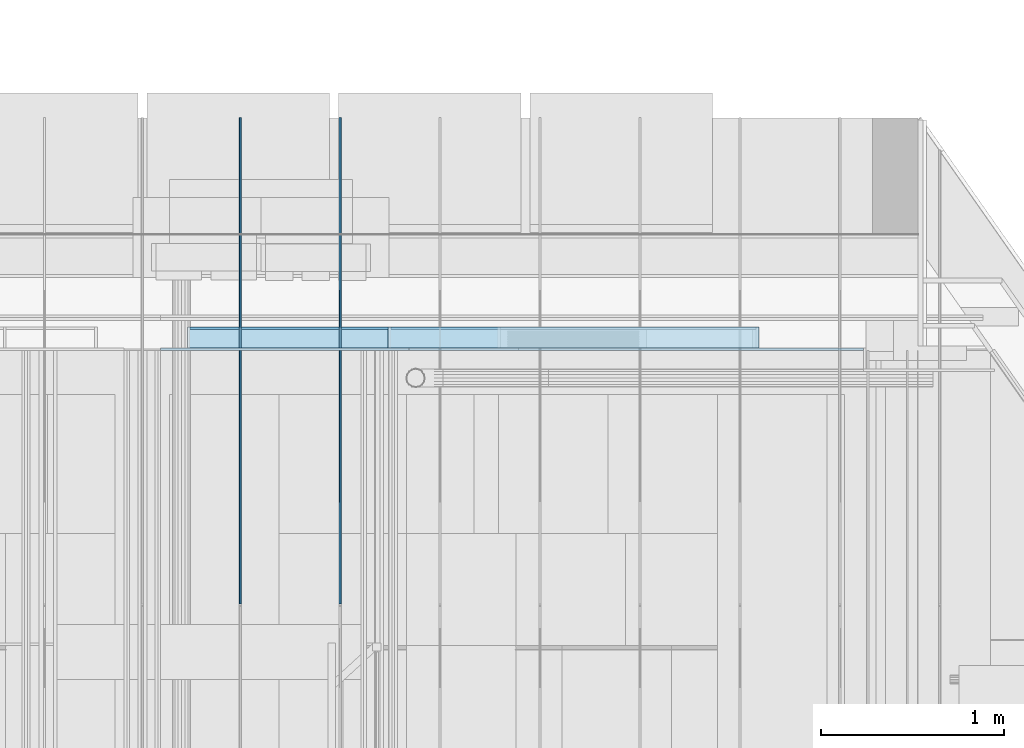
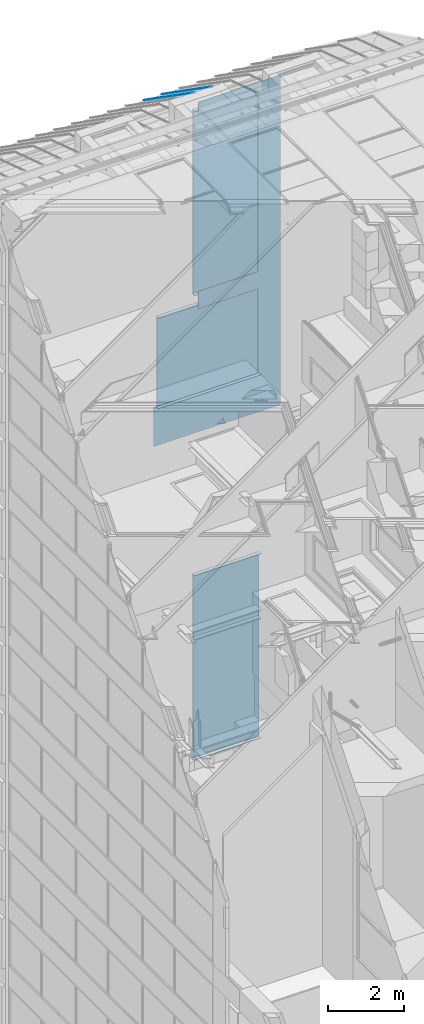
# One storey, part 290 of 583: 12 slabs.
"""IFC2X3 building model written with IfcOpenShell, lengths in metres."""

import ifcopenshell
import ifcopenshell.guid

model = None  # the IFC model being written
_history = None  # IfcOwnerHistory: only IFC2X3 demands one
_inside = {}  # id of a spatial element -> (the spatial element, [elements in it])
_under = {}  # id of a project, library or spatial element -> (it, [spatial elements below it])
_declared = {}  # id of a project -> (the project, [libraries it declares])
_typed = {}  # id of a type object -> (the type object, [elements of that type])
_made_of = {}  # id of a material, layer set ... -> (it, [elements and type objects made of it])


def new_model(schema):
    """Start an empty IFC model of exactly this schema.

    Asked for "IFC4X3", IfcOpenShell would pick the latest addendum, in which some entities
    have other attributes; the version numbers below select the first issue.
    IFC2X3 requires an IfcOwnerHistory on every rooted entity: one is made here for all.
    """
    global model, _history
    if schema == "IFC4X3":
        model = ifcopenshell.file(schema_version=(4, 3, 0, 0))
    else:
        model = ifcopenshell.file(schema=schema)
    _inside.clear()
    _under.clear()
    _declared.clear()
    _typed.clear()
    _made_of.clear()
    _history = None
    if model.schema == "IFC2X3":
        org = make("IfcOrganization", Name="unknown")
        user = make(
            "IfcPersonAndOrganization",
            ThePerson=make("IfcPerson", FamilyName="unknown"),
            TheOrganization=org,
        )
        app = make(
            "IfcApplication",
            ApplicationDeveloper=org,
            Version="unknown",
            ApplicationFullName="unknown",
            ApplicationIdentifier="unknown",
        )
        _history = make(
            "IfcOwnerHistory",
            OwningUser=user,
            OwningApplication=app,
            ChangeAction="ADDED",
            CreationDate=0,
        )
    return model


def make(cls, **values):
    """One entity of the class cls with the attributes given. An attribute that is None is left unset."""
    return model.create_entity(
        cls, **{name: value for name, value in values.items() if value is not None}
    )


def entity(cls, *values):
    """Any entity or typed value of the class cls, its attributes in the order of the schema. None: left unset."""
    e = model.create_entity(cls)
    for i, value in enumerate(values):
        if value is not None:
            e[i] = value
    return e


def rooted(cls, **values):
    """An entity with a GlobalId (a new one), such as an element, a storey or a relation."""
    return make(cls, GlobalId=ifcopenshell.guid.new(), OwnerHistory=_history, **values)


def si_unit(unit_type, name, prefix=None):
    """IfcSIUnit, for example si_unit("LENGTHUNIT", "METRE", prefix="MILLI")."""
    return make("IfcSIUnit", UnitType=unit_type, Prefix=prefix, Name=name)


def converted_unit(unit_type, name, factor, base, dimensions=None, offset=None):
    """IfcConversionBasedUnit, such as the inch: factor (a typed value) times the base unit."""
    return make(
        "IfcConversionBasedUnit"
        if offset is None
        else "IfcConversionBasedUnitWithOffset",
        ConversionOffset=offset,
        Dimensions=None
        if dimensions is None
        else entity("IfcDimensionalExponents", *dimensions),
        UnitType=unit_type,
        Name=name,
        ConversionFactor=make(
            "IfcMeasureWithUnit", ValueComponent=factor, UnitComponent=base
        ),
    )


def derived_unit(unit_type, elements):
    """IfcDerivedUnit: a product of units, each with its exponent."""
    return make(
        "IfcDerivedUnit",
        Elements=[
            make("IfcDerivedUnitElement", Unit=unit, Exponent=power)
            for unit, power in elements
        ],
        UnitType=unit_type,
    )


def money_unit(currency):
    """IfcMonetaryUnit."""
    return make("IfcMonetaryUnit", Currency=currency)


def assignment(units):
    """IfcUnitAssignment: the units of a project."""
    return None if units is None else make("IfcUnitAssignment", Units=units)


def point(xyz):
    """IfcCartesianPoint."""
    return None if xyz is None else make("IfcCartesianPoint", Coordinates=xyz)


def direction(xyz):
    """IfcDirection."""
    return None if xyz is None else make("IfcDirection", DirectionRatios=xyz)


def frame(location, z_axis=None, x_axis=None):
    """IfcAxis2Placement3D, a coordinate frame: its origin and axes. An axis left out is left unset."""
    return make(
        "IfcAxis2Placement3D",
        Location=point(location),
        Axis=direction(z_axis),
        RefDirection=direction(x_axis),
    )


def origin_with_axes():
    """The frame at (0, 0, 0) with the z axis (0, 0, 1) and the x axis (1, 0, 0) written out."""
    return frame((0.0, 0.0, 0.0), z_axis=(0.0, 0.0, 1.0), x_axis=(1.0, 0.0, 0.0))


def place(relative_to, where):
    """IfcLocalPlacement: puts the frame where relative to a parent placement (None: the world)."""
    return make(
        "IfcLocalPlacement", PlacementRelTo=relative_to, RelativePlacement=where
    )


def context(
    kind, dimensions, precision=None, world=None, true_north=None, identifier=None
):
    """IfcGeometricRepresentationContext, for example the 3D "Model" context."""
    return make(
        "IfcGeometricRepresentationContext",
        ContextIdentifier=identifier,
        ContextType=kind,
        CoordinateSpaceDimension=dimensions,
        Precision=precision,
        WorldCoordinateSystem=world,
        TrueNorth=true_north,
    )


def subcontext(parent, identifier, kind, view, scale=None):
    """IfcGeometricRepresentationSubContext, for example "Body" below "Model"."""
    return make(
        "IfcGeometricRepresentationSubContext",
        ContextIdentifier=identifier,
        ContextType=kind,
        ParentContext=parent,
        TargetScale=scale,
        TargetView=view,
    )


def project(units=None, contexts=None):
    """IfcProject with its units and contexts."""
    return rooted(
        "IfcProject",
        Name="project",
        RepresentationContexts=contexts,
        UnitsInContext=assignment(units),
    )


def spatial(cls, under=None, at=None, **own):
    """A site, building, storey or space (cls), placed at a placement, below another one or the project."""
    s = rooted(cls, ObjectPlacement=at, **own)
    if under is not None:
        _under.setdefault(under.id(), (under, []))[1].append(s)
    return s


def faces_of(points, faces, orient=None, outer=None):
    """IfcFace entities. A face is a list of loops; a loop is a list of indices into points, from 0.

    orient and outer hold one flag for each loop. By default every Orientation is true, the
    first loop of a face is its IfcFaceOuterBound and the others are IfcFaceBound.
    """
    made = []
    for i, loops in enumerate(faces):
        bounds = []
        for j, loop in enumerate(loops):
            is_outer = j == 0 if outer is None else outer[i][j]
            bounds.append(
                make(
                    "IfcFaceOuterBound" if is_outer else "IfcFaceBound",
                    Bound=make("IfcPolyLoop", Polygon=[points[k] for k in loop]),
                    Orientation=True if orient is None else orient[i][j],
                )
            )
        made.append(make("IfcFace", Bounds=bounds))
    return made


def faceted_brep(points, faces, orient=None, outer=None, voids=None):
    """IfcFacetedBrep: a solid bounded by flat faces; with voids (closed shells), ...WithVoids."""
    shared = [point(p) for p in points]
    hull = make("IfcClosedShell", CfsFaces=faces_of(shared, faces, orient, outer))
    if voids is None:
        return make("IfcFacetedBrep", Outer=hull)
    return make(
        "IfcFacetedBrepWithVoids",
        Outer=hull,
        Voids=[
            make(cls, CfsFaces=faces_of(shared, fs, o, b)) for cls, fs, o, b in voids
        ],
    )


def shape(context_of_items, identifier, shape_type, items):
    """IfcShapeRepresentation: the items that make up one representation, for example the "Body"."""
    return make(
        "IfcShapeRepresentation",
        ContextOfItems=context_of_items,
        RepresentationIdentifier=identifier,
        RepresentationType=shape_type,
        Items=items,
    )


def material(Name=None, Category=None):
    """IfcMaterial."""
    return make("IfcMaterial", Name=Name, Category=Category)


def made_of(thing, what):
    """Note that an element or type object is made of a material, layer set ...; save() writes the relation."""
    if what is not None:
        _made_of.setdefault(what.id(), (what, []))[1].append(thing)
    return thing


def type_object(cls, material=None, **own):
    """A type object (cls), such as IfcWallType, which elements share."""
    return made_of(rooted(cls, **own), material)


def element(
    cls,
    number,
    at=None,
    inside=None,
    cuts=None,
    type_object=None,
    material=None,
    context=None,
    identifier="Body",
    shape_type=None,
    held_by="IfcProductDefinitionShape",
    body=None,
    shapes=None,
    **own,
):
    """One element of the class cls, such as IfcWall. Its Tag is "e" and its number.

    at: its placement. inside: the storey or other place that contains it. cuts: it is an
    opening in that element (IfcRelVoidsElement). A single representation is given by context,
    identifier, shape_type and body (its items); several are given by shapes. held_by: the class
    of the entity that holds the representations. save() writes the other relations.
    """
    e = rooted(cls, Tag="e%d" % number, ObjectPlacement=at, **own)
    if body is not None:
        shapes = [shape(context, identifier, shape_type, body)]
    if shapes is not None:
        e.Representation = make(held_by, Representations=shapes)
    if inside is not None:
        _inside.setdefault(inside.id(), (inside, []))[1].append(e)
    if cuts is not None:
        rooted(
            "IfcRelVoidsElement", RelatingBuildingElement=cuts, RelatedOpeningElement=e
        )
    if type_object is not None:
        _typed.setdefault(type_object.id(), (type_object, []))[1].append(e)
    return made_of(e, material)


def aggregate(whole, parts):
    """IfcRelAggregates: a whole, such as a stair, and the parts it consists of."""
    return rooted("IfcRelAggregates", RelatingObject=whole, RelatedObjects=parts)


def save(model, path):
    """Write the relations noted so far, then the file.

    IfcRelAggregates (storeys below a building ...), IfcRelContainedInSpatialStructure (elements
    in a storey), IfcRelDefinesByType, IfcRelAssociatesMaterial and IfcRelDeclares: one each for
    every whole, place, type object, material and project.
    """
    for whole, parts in _under.values():
        aggregate(whole, parts)
    for where, things in _inside.values():
        rooted(
            "IfcRelContainedInSpatialStructure",
            RelatedElements=things,
            RelatingStructure=where,
        )
    for kind, things in _typed.values():
        rooted("IfcRelDefinesByType", RelatedObjects=things, RelatingType=kind)
    for what, things in _made_of.values():
        rooted("IfcRelAssociatesMaterial", RelatedObjects=things, RelatingMaterial=what)
    for by, libraries in _declared.values():
        rooted("IfcRelDeclares", RelatingContext=by, RelatedDefinitions=libraries)
    model.write(path)


model = new_model("IFC2X3")

# Units and contexts
model_context = context("Model", 3, precision=1e-05, world=origin_with_axes(), true_north=direction((0.0, 1.0)))
body_context = subcontext(model_context, "Body", "Model", "MODEL_VIEW", scale=1.0)
ifc_project = project(units=[si_unit("LENGTHUNIT", "METRE"), si_unit("AREAUNIT", "SQUARE_METRE"), si_unit("VOLUMEUNIT", "CUBIC_METRE"), si_unit("ABSORBEDDOSEUNIT", "GRAY"), si_unit("AMOUNTOFSUBSTANCEUNIT", "MOLE"), si_unit("DOSEEQUIVALENTUNIT", "SIEVERT"), si_unit("ELECTRICCAPACITANCEUNIT", "FARAD"), si_unit("ELECTRICCHARGEUNIT", "COULOMB"), si_unit("ELECTRICCONDUCTANCEUNIT", "SIEMENS"), si_unit("ELECTRICCURRENTUNIT", "AMPERE"), si_unit("ELECTRICRESISTANCEUNIT", "OHM"), si_unit("ELECTRICVOLTAGEUNIT", "VOLT"), si_unit("ENERGYUNIT", "JOULE"), si_unit("FORCEUNIT", "NEWTON"), si_unit("FREQUENCYUNIT", "HERTZ"), si_unit("ILLUMINANCEUNIT", "LUX"), si_unit("INDUCTANCEUNIT", "HENRY"), si_unit("LUMINOUSFLUXUNIT", "LUMEN"), si_unit("LUMINOUSINTENSITYUNIT", "CANDELA"), si_unit("MAGNETICFLUXDENSITYUNIT", "TESLA"), si_unit("MAGNETICFLUXUNIT", "WEBER"), si_unit("MASSUNIT", "GRAM"), converted_unit("PLANEANGLEUNIT", "degree", entity("IfcReal", 0.0174532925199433), si_unit("PLANEANGLEUNIT", "RADIAN"), dimensions=[0, 0, 0, 0, 0, 0, 0]), si_unit("POWERUNIT", "WATT"), si_unit("PRESSUREUNIT", "PASCAL"), si_unit("RADIOACTIVITYUNIT", "BECQUEREL"), si_unit("SOLIDANGLEUNIT", "STERADIAN"), si_unit("THERMODYNAMICTEMPERATUREUNIT", "KELVIN"), si_unit("TIMEUNIT", "SECOND"), derived_unit("ACCELERATIONUNIT", [(si_unit("LENGTHUNIT", "METRE"), 1), (si_unit("TIMEUNIT", "SECOND"), -2)]), derived_unit("ANGULARVELOCITYUNIT", [(converted_unit("PLANEANGLEUNIT", "degree", entity("IfcReal", 0.0174532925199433), si_unit("PLANEANGLEUNIT", "RADIAN"), dimensions=[0, 0, 0, 0, 0, 0, 0]), 1), (si_unit("TIMEUNIT", "SECOND"), -1)]), derived_unit("CURVATUREUNIT", [(converted_unit("PLANEANGLEUNIT", "degree", entity("IfcReal", 0.0174532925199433), si_unit("PLANEANGLEUNIT", "RADIAN"), dimensions=[0, 0, 0, 0, 0, 0, 0]), 1), (si_unit("LENGTHUNIT", "METRE"), -1)]), derived_unit("DYNAMICVISCOSITYUNIT", [(si_unit("PRESSUREUNIT", "PASCAL"), 1), (si_unit("TIMEUNIT", "SECOND"), 1)]), derived_unit("HEATFLUXDENSITYUNIT", [(si_unit("POWERUNIT", "WATT"), 1), (si_unit("LENGTHUNIT", "METRE"), -2)]), derived_unit("HEATINGVALUEUNIT", [(si_unit("ENERGYUNIT", "JOULE"), 1), (si_unit("MASSUNIT", "GRAM"), -1)]), derived_unit("INTEGERCOUNTRATEUNIT", [(si_unit("TIMEUNIT", "SECOND"), -1)]), derived_unit("IONCONCENTRATIONUNIT", [(si_unit("MASSUNIT", "GRAM"), 1), (si_unit("VOLUMEUNIT", "CUBIC_METRE"), -1)]), derived_unit("ISOTHERMALMOISTURECAPACITYUNIT", [(si_unit("VOLUMEUNIT", "CUBIC_METRE"), 1), (si_unit("MASSUNIT", "GRAM"), -1)]), derived_unit("KINEMATICVISCOSITYUNIT", [(si_unit("AREAUNIT", "SQUARE_METRE"), 1), (si_unit("TIMEUNIT", "SECOND"), -1)]), derived_unit("LINEARFORCEUNIT", [(si_unit("FORCEUNIT", "NEWTON"), 1), (si_unit("LENGTHUNIT", "METRE"), -1)]), derived_unit("LINEARMOMENTUNIT", [(si_unit("FORCEUNIT", "NEWTON"), 1), (si_unit("LENGTHUNIT", "METRE"), -1)]), derived_unit("LINEARSTIFFNESSUNIT", [(si_unit("FORCEUNIT", "NEWTON"), 1), (si_unit("LENGTHUNIT", "METRE"), -1)]), derived_unit("LINEARVELOCITYUNIT", [(si_unit("LENGTHUNIT", "METRE"), 1), (si_unit("TIMEUNIT", "SECOND"), -1)]), derived_unit("LUMINOUSINTENSITYDISTRIBUTIONUNIT", [(si_unit("LUMINOUSINTENSITYUNIT", "CANDELA"), 1), (si_unit("LUMINOUSFLUXUNIT", "LUMEN"), -1)]), derived_unit("MASSDENSITYUNIT", [(si_unit("MASSUNIT", "GRAM"), 1), (si_unit("VOLUMEUNIT", "CUBIC_METRE"), -1)]), derived_unit("MASSFLOWRATEUNIT", [(si_unit("MASSUNIT", "GRAM"), 1), (si_unit("TIMEUNIT", "SECOND"), -1)]), derived_unit("MASSPERLENGTHUNIT", [(si_unit("MASSUNIT", "GRAM"), 1), (si_unit("LENGTHUNIT", "METRE"), -1)]), derived_unit("MODULUSOFELASTICITYUNIT", [(si_unit("FORCEUNIT", "NEWTON"), 1), (si_unit("AREAUNIT", "SQUARE_METRE"), -1)]), derived_unit("MODULUSOFLINEARSUBGRADEREACTIONUNIT", [(si_unit("FORCEUNIT", "NEWTON"), 1), (si_unit("LENGTHUNIT", "METRE"), -2)]), derived_unit("MODULUSOFROTATIONALSUBGRADEREACTIONUNIT", [(si_unit("FORCEUNIT", "NEWTON"), 1), (si_unit("LENGTHUNIT", "METRE"), 1)]), derived_unit("MODULUSOFSUBGRADEREACTIONUNIT", [(si_unit("FORCEUNIT", "NEWTON"), 1), (si_unit("VOLUMEUNIT", "CUBIC_METRE"), -1)]), derived_unit("MOISTUREDIFFUSIVITYUNIT", [(si_unit("VOLUMEUNIT", "CUBIC_METRE"), 1), (si_unit("TIMEUNIT", "SECOND"), -1)]), derived_unit("MOLECULARWEIGHTUNIT", [(si_unit("MASSUNIT", "GRAM"), 1), (si_unit("AMOUNTOFSUBSTANCEUNIT", "MOLE"), -1)]), derived_unit("PLANARFORCEUNIT", [(si_unit("FORCEUNIT", "NEWTON"), 1), (si_unit("LENGTHUNIT", "METRE"), -2)]), derived_unit("ROTATIONALFREQUENCYUNIT", [(si_unit("TIMEUNIT", "SECOND"), -1)]), derived_unit("ROTATIONALMASSUNIT", [(si_unit("MASSUNIT", "GRAM"), 1), (si_unit("LENGTHUNIT", "METRE"), 2)]), derived_unit("ROTATIONALSTIFFNESSUNIT", [(si_unit("FORCEUNIT", "NEWTON"), 1), (si_unit("LENGTHUNIT", "METRE"), 1), (converted_unit("PLANEANGLEUNIT", "degree", entity("IfcReal", 0.0174532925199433), si_unit("PLANEANGLEUNIT", "RADIAN"), dimensions=[0, 0, 0, 0, 0, 0, 0]), -1)]), derived_unit("SECTIONAREAINTEGRALUNIT", [(si_unit("LENGTHUNIT", "METRE"), 5)]), derived_unit("SECTIONMODULUSUNIT", [(si_unit("LENGTHUNIT", "METRE"), 3)]), derived_unit("SHEARMODULUSUNIT", [(si_unit("FORCEUNIT", "NEWTON"), 1), (si_unit("AREAUNIT", "SQUARE_METRE"), -1)]), derived_unit("SOUNDPOWERUNIT", [(si_unit("ENERGYUNIT", "JOULE"), 1), (si_unit("TIMEUNIT", "SECOND"), -1)]), derived_unit("SPECIFICHEATCAPACITYUNIT", [(si_unit("FORCEUNIT", "NEWTON"), 1), (si_unit("MASSUNIT", "GRAM"), -1), (si_unit("THERMODYNAMICTEMPERATUREUNIT", "KELVIN"), -1)]), derived_unit("TEMPERATUREGRADIENTUNIT", [(si_unit("THERMODYNAMICTEMPERATUREUNIT", "KELVIN"), 1), (si_unit("LENGTHUNIT", "METRE"), -1)]), derived_unit("THERMALADMITTANCEUNIT", [(si_unit("POWERUNIT", "WATT"), 1), (si_unit("AREAUNIT", "SQUARE_METRE"), -1), (si_unit("THERMODYNAMICTEMPERATUREUNIT", "KELVIN"), -1)]), derived_unit("THERMALCONDUCTANCEUNIT", [(si_unit("POWERUNIT", "WATT"), 1), (si_unit("LENGTHUNIT", "METRE"), -1), (si_unit("THERMODYNAMICTEMPERATUREUNIT", "KELVIN"), -1)]), derived_unit("THERMALEXPANSIONCOEFFICIENTUNIT", [(si_unit("THERMODYNAMICTEMPERATUREUNIT", "KELVIN"), -1)]), derived_unit("THERMALRESISTANCEUNIT", [(si_unit("AREAUNIT", "SQUARE_METRE"), 1), (si_unit("POWERUNIT", "WATT"), -1)]), derived_unit("THERMALTRANSMITTANCEUNIT", [(si_unit("POWERUNIT", "WATT"), 1), (si_unit("AREAUNIT", "SQUARE_METRE"), -1), (si_unit("THERMODYNAMICTEMPERATUREUNIT", "KELVIN"), -1)]), derived_unit("TORQUEUNIT", [(si_unit("FORCEUNIT", "NEWTON"), 1), (si_unit("LENGTHUNIT", "METRE"), 1)]), derived_unit("VAPORPERMEABILITYUNIT", [(si_unit("MASSUNIT", "GRAM"), 1), (si_unit("TIMEUNIT", "SECOND"), -1)]), derived_unit("VOLUMETRICFLOWRATEUNIT", [(si_unit("VOLUMEUNIT", "CUBIC_METRE"), 1), (si_unit("TIMEUNIT", "SECOND"), -1)]), derived_unit("WARPINGCONSTANTUNIT", [(si_unit("LENGTHUNIT", "METRE"), 6)]), derived_unit("WARPINGMOMENTUNIT", [(si_unit("FORCEUNIT", "NEWTON"), 1), (si_unit("LENGTHUNIT", "METRE"), 2)]), money_unit("GBP")], contexts=[model_context])

# Site, building, storey
site_placement = place(None, origin_with_axes())
site = spatial("IfcSite", under=ifc_project, at=site_placement, Name="Site", CompositionType="ELEMENT")
building_placement = place(site_placement, origin_with_axes())
building = spatial("IfcBuilding", under=site, at=building_placement, Name="Building01", CompositionType="ELEMENT")
storey_placement = place(building_placement, frame((0.0, 0.0, 20.78), z_axis=(0.0, 0.0, 1.0), x_axis=(1.0, 0.0, 0.0)))
storey = spatial("IfcBuildingStorey", under=building, at=storey_placement, Name="RL", CompositionType="ELEMENT", Elevation=20.78)

# Slabs
ifc_material_1 = material(Name="A_BSUK_CeilingSoffitFinishes_Suspended")
slab_type = type_object("IfcSlabType", Name="A-FloorsSlabs A_BSUK_Slabs", PredefinedType="FLOOR")
placement = place(storey_placement, frame((0.0, 0.0, -20.78), z_axis=(0.0, 0.0, 1.0), x_axis=(1.0, 0.0, 0.0)))
element("IfcSlab", 1, at=placement, inside=storey, type_object=slab_type, material=ifc_material_1, Name="A-FloorsSlabs A_BSUK_Slabs", ObjectType="CompoundSlabLeaf", context=body_context, shape_type="Brep", body=[
    faceted_brep([(10.8116, 20.295, 3.1), (10.8116, 20.31, 3.1), (10.8116, 20.31, 9.0), (10.8116, 20.295, 9.0), (8.8116, 20.295, 3.1), (8.8116, 20.31, 3.1), (8.8116, 20.295, 9.0), (8.8116, 20.31, 9.0)], [[[0, 1, 2, 3]], [[4, 5, 1, 0]], [[6, 7, 5, 4]], [[3, 2, 7, 6]], [[1, 5, 7, 2]], [[3, 6, 4, 0]]]),
])
element("IfcSlab", 2, at=placement, inside=storey, type_object=slab_type, material=ifc_material_1, Name="A-FloorsSlabs A_BSUK_Slabs", ObjectType="CompoundSlabLeaf", context=body_context, shape_type="Brep", body=[
    faceted_brep([(10.8116, 20.295, 14.75), (10.8116, 20.31, 14.75), (10.8116, 20.31, 17.65), (10.8116, 20.295, 17.65), (7.7116, 20.295, 14.75), (7.7116, 20.31, 14.75), (7.7116, 20.295, 17.65), (7.7116, 20.31, 17.65)], [[[0, 1, 2, 3]], [[4, 5, 1, 0]], [[6, 7, 5, 4]], [[3, 2, 7, 6]], [[1, 5, 7, 2]], [[3, 6, 4, 0]]]),
])
element("IfcSlab", 3, at=placement, inside=storey, type_object=slab_type, material=ifc_material_1, Name="A-FloorsSlabs A_BSUK_Slabs", ObjectType="CompoundSlabLeaf", context=body_context, shape_type="Brep", body=[
    faceted_brep([(10.8116, 20.295, 18.0), (10.8116, 20.31, 18.0), (10.8116, 20.31, 23.9), (10.8116, 20.295, 23.9), (8.8116, 20.295, 18.0), (8.8116, 20.31, 18.0), (8.8116, 20.295, 23.9), (8.8116, 20.31, 23.9)], [[[0, 1, 2, 3]], [[4, 5, 1, 0]], [[6, 7, 5, 4]], [[3, 2, 7, 6]], [[1, 5, 7, 2]], [[3, 6, 4, 0]]]),
])
element("IfcSlab", 4, at=placement, inside=storey, type_object=slab_type, material=ifc_material_1, Name="A-FloorsSlabs A_BSUK_Slabs", ObjectType="CompoundSlabLeaf", context=body_context, shape_type="Brep", body=[
    faceted_brep([(11.399939, 20.18, 22.239976), (11.399939, 20.195, 22.239976), (11.399939, 20.195, 24.181874), (11.399939, 20.18, 24.181874), (11.399939, 20.18, 13.6), (11.399939, 20.195, 13.6), (7.549939, 20.18, 13.6), (7.549939, 20.195, 13.6), (7.549939, 20.18, 14.85), (7.549939, 20.195, 14.85), (10.7116, 20.18, 14.849996), (10.7116, 20.195, 14.849996), (10.711603, 20.18, 17.549999), (10.711603, 20.195, 17.549999), (8.9116, 20.18, 17.55), (8.9116, 20.195, 17.55), (8.9116, 20.18, 18.1), (8.9116, 20.195, 18.1), (10.7116, 20.18, 18.1), (10.7116, 20.195, 18.1), (10.7116, 20.18, 23.8), (10.7116, 20.195, 23.8), (9.0616, 20.18, 23.8), (9.0616, 20.195, 23.8), (8.9116, 20.18, 23.8), (8.9116, 20.195, 23.8), (8.9116, 20.18, 24.181874), (8.9116, 20.195, 24.181874)], [[[0, 1, 2, 3]], [[4, 5, 1, 0]], [[6, 7, 5, 4]], [[8, 9, 7, 6]], [[10, 11, 9, 8]], [[12, 13, 11, 10]], [[14, 15, 13, 12]], [[16, 17, 15, 14]], [[18, 19, 17, 16]], [[20, 21, 19, 18]], [[22, 23, 21, 20]], [[24, 25, 23, 22]], [[26, 27, 25, 24]], [[3, 2, 27, 26]], [[1, 5, 7, 9, 11, 13, 15, 17, 19, 21, 23, 25, 27, 2]], [[3, 26, 24, 22, 20, 18, 16, 14, 12, 10, 8, 6, 4, 0]]]),
])
element("IfcSlab", 5, at=placement, inside=storey, type_object=slab_type, material=ifc_material_1, Name="A-FloorsSlabs A_BSUK_Slabs", ObjectType="CompoundSlabLeaf", context=body_context, shape_type="Brep", body=[
    faceted_brep([(10.8266, 20.195, 3.1), (10.8266, 20.195, 3.085), (10.8266, 20.31, 3.085), (10.8266, 20.31, 3.1), (8.7966, 20.195, 3.1), (8.7966, 20.195, 3.085), (8.7966, 20.31, 3.1), (8.7966, 20.31, 3.085)], [[[0, 1, 2, 3]], [[4, 5, 1, 0]], [[6, 7, 5, 4]], [[3, 2, 7, 6]], [[1, 5, 7, 2]], [[3, 6, 4, 0]]]),
])
element("IfcSlab", 6, at=placement, inside=storey, type_object=slab_type, material=ifc_material_1, Name="A-FloorsSlabs A_BSUK_Slabs", ObjectType="CompoundSlabLeaf", context=body_context, shape_type="Brep", body=[
    faceted_brep([(10.8266, 20.195, 18.0), (10.8266, 20.195, 17.985), (10.8266, 20.31, 17.985), (10.8266, 20.31, 18.0), (8.7966, 20.195, 18.0), (8.7966, 20.195, 17.985), (8.7966, 20.31, 18.0), (8.7966, 20.31, 17.985)], [[[0, 1, 2, 3]], [[4, 5, 1, 0]], [[6, 7, 5, 4]], [[3, 2, 7, 6]], [[1, 5, 7, 2]], [[3, 6, 4, 0]]]),
])
element("IfcSlab", 7, at=placement, inside=storey, type_object=slab_type, material=ifc_material_1, Name="A-FloorsSlabs A_BSUK_Slabs", ObjectType="CompoundSlabLeaf", context=body_context, shape_type="Brep", body=[
    faceted_brep([(10.8266, 20.195, 14.75), (10.8266, 20.195, 14.735), (10.8266, 20.31, 14.735), (10.8266, 20.31, 14.75), (7.6966, 20.195, 14.75), (7.6966, 20.195, 14.735), (7.6966, 20.31, 14.75), (7.6966, 20.31, 14.735)], [[[0, 1, 2, 3]], [[4, 5, 1, 0]], [[6, 7, 5, 4]], [[3, 2, 7, 6]], [[1, 5, 7, 2]], [[3, 6, 4, 0]]]),
])
element("IfcSlab", 8, at=placement, inside=storey, type_object=slab_type, material=ifc_material_1, Name="A-FloorsSlabs A_BSUK_Slabs", ObjectType="CompoundSlabLeaf", context=body_context, shape_type="Brep", body=[
    faceted_brep([(10.8266, 20.195, 17.665), (10.8266, 20.195, 17.65), (10.8266, 20.31, 17.65), (10.8266, 20.31, 17.665), (7.6966, 20.195, 17.665), (7.6966, 20.195, 17.65), (7.6966, 20.31, 17.665), (7.6966, 20.31, 17.65)], [[[0, 1, 2, 3]], [[4, 5, 1, 0]], [[6, 7, 5, 4]], [[3, 2, 7, 6]], [[1, 5, 7, 2]], [[3, 6, 4, 0]]]),
])
element("IfcSlab", 9, at=placement, inside=storey, type_object=slab_type, material=ifc_material_1, Name="A-FloorsSlabs A_BSUK_Slabs", ObjectType="CompoundSlabLeaf", context=body_context, shape_type="Brep", body=[
    faceted_brep([(10.8266, 20.195, 23.915), (10.8266, 20.195, 23.9), (10.8266, 20.31, 23.9), (10.8266, 20.31, 23.915), (8.7966, 20.195, 23.915), (8.7966, 20.195, 23.9), (8.7966, 20.31, 23.915), (8.7966, 20.31, 23.9)], [[[0, 1, 2, 3]], [[4, 5, 1, 0]], [[6, 7, 5, 4]], [[3, 2, 7, 6]], [[1, 5, 7, 2]], [[3, 6, 4, 0]]]),
])
element("IfcSlab", 10, at=placement, inside=storey, type_object=slab_type, material=ifc_material_1, Name="A-FloorsSlabs A_BSUK_Slabs", ObjectType="CompoundSlabLeaf", context=body_context, shape_type="Brep", body=[
    faceted_brep([(10.8266, 20.195, 9.015), (10.8266, 20.195, 9.0), (10.8266, 20.31, 9.0), (10.8266, 20.31, 9.015), (8.7966, 20.195, 9.015), (8.7966, 20.195, 9.0), (8.7966, 20.31, 9.015), (8.7966, 20.31, 9.0)], [[[0, 1, 2, 3]], [[4, 5, 1, 0]], [[6, 7, 5, 4]], [[3, 2, 7, 6]], [[1, 5, 7, 2]], [[3, 6, 4, 0]]]),
])
ifc_material_2 = material(Name="A_BSUK_Roofs")
element("IfcSlab", 11, at=placement, inside=storey, type_object=slab_type, material=ifc_material_2, Name="A-FloorsSlabs A_BSUK_Slabs", ObjectType="CompoundSlabLeaf", context=body_context, shape_type="Brep", body=[
    faceted_brep([(7.990953, 21.444928, 23.780061), (7.990953, 21.456399, 23.796444), (7.990953, 18.791933, 25.662123), (7.990953, 18.780461, 25.64574), (7.980953, 21.444928, 23.780061), (7.980953, 21.456399, 23.796444), (7.980953, 18.780461, 25.64574), (7.980953, 18.791933, 25.662123)], [[[0, 1, 2, 3]], [[4, 5, 1, 0]], [[6, 7, 5, 4]], [[3, 2, 7, 6]], [[1, 5, 7, 2]], [[3, 6, 4, 0]]]),
])
element("IfcSlab", 12, at=placement, inside=storey, type_object=slab_type, material=ifc_material_2, Name="A-FloorsSlabs A_BSUK_Slabs", ObjectType="CompoundSlabLeaf", context=body_context, shape_type="Brep", body=[
    faceted_brep([(8.538453, 21.444928, 23.780061), (8.538453, 21.456399, 23.796444), (8.538453, 18.791933, 25.662123), (8.538453, 18.780461, 25.64574), (8.528453, 21.444928, 23.780061), (8.528453, 21.456399, 23.796444), (8.528453, 18.780461, 25.64574), (8.528453, 18.791933, 25.662123)], [[[0, 1, 2, 3]], [[4, 5, 1, 0]], [[6, 7, 5, 4]], [[3, 2, 7, 6]], [[1, 5, 7, 2]], [[3, 6, 4, 0]]]),
])

save(model, "model.ifc")
